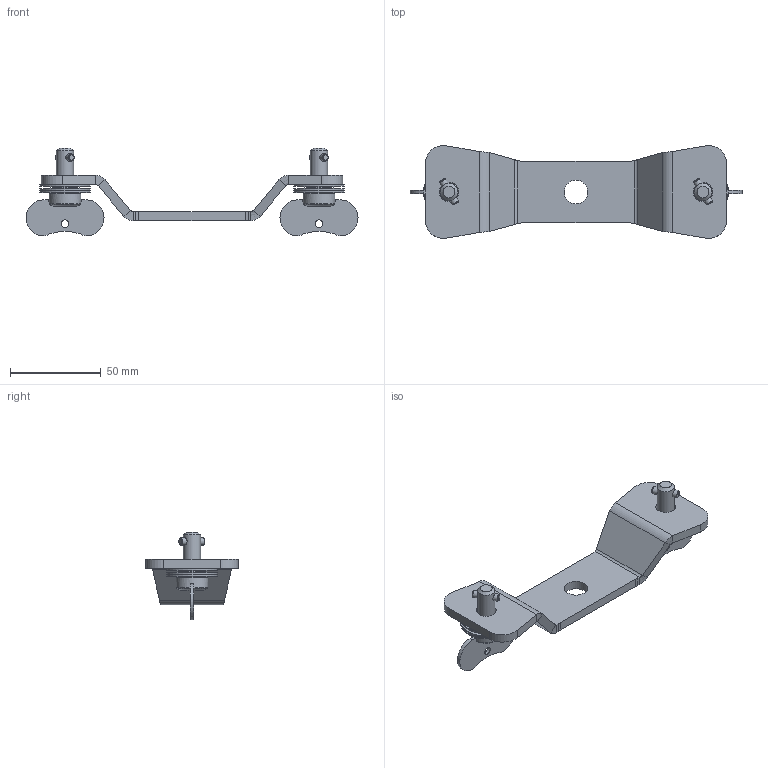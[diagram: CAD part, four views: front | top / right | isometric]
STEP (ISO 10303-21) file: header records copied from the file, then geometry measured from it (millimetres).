
FILE_DESCRIPTION(/* description */ ('Unknown'),/* implementation_level */ '2;1');
FILE_NAME(/* name */ 'Omega Bracket 9',/* time_stamp */ '2020-09-24T08:50:38+02:00',/* author */ ('Ing.Rostislav HĂˇba'),/* organization */ ('ROBE lighting'),/* preprocessor_version */ 'ST-DEVELOPER v16.7',/* originating_system */ 'Solid Edge',/* authorisation */ 'Unknown');
FILE_SCHEMA (('AUTOMOTIVE_DESIGN {1 0 10303 214 3 1 1}'));
Length unit declared in the file: millimetre
Products named in the file (7): 99010420-02 Kotevní závìs s CAMLOC 9; 17630135 Talíøová pružina 28x10,2x0,8; 17030152 Kolík 4x14 DIN1475; 18060050 Šroub CAMLOC 9 s køidélkem; 18060048 Šroub CAMLOC 9; 11010728-01 Køidelko CAMLOC 9; 11010731 Z嫛鮀
Assembly tree (13 placements, depth 3):
  99010420-02 Kotevní závìs s CAMLOC 9
    17630135 Talíøová pružina 28x10,2x0,8  x6
    17030152 Kolík 4x14 DIN1475  x2
    18060050 Šroub CAMLOC 9 s køidélkem  x2
      18060048 Šroub CAMLOC 9
      11010728-01 Køidelko CAMLOC 9
    11010731 Z嫛鮀
Bounding box: 183 x 51.2 x 48.3 mm (x, y, z)
Volume: 47412.4 mm3; surface area: 31032.3 mm2
Topology: 13 solids, 13 shells, 165 faces, 369 edges, 232 vertices
Faces by surface type: plane 70, cylinder 59, cone 22, bspline 8, torus 6
Full cylindrical faces by diameter (mm): 4 x4, 4.2 x2, 9.5 x2, 10.2 x6, 11 x2, 13 x1, 17.5 x2, 28 x6
Entity records: 3021 total; most frequent: CARTESIAN_POINT 699, DIRECTION 452, ORIENTED_EDGE 406, EDGE_CURVE 203, AXIS2_PLACEMENT_3D 172, VERTEX_POINT 133, EDGE_LOOP 126, FACE_BOUND 126
